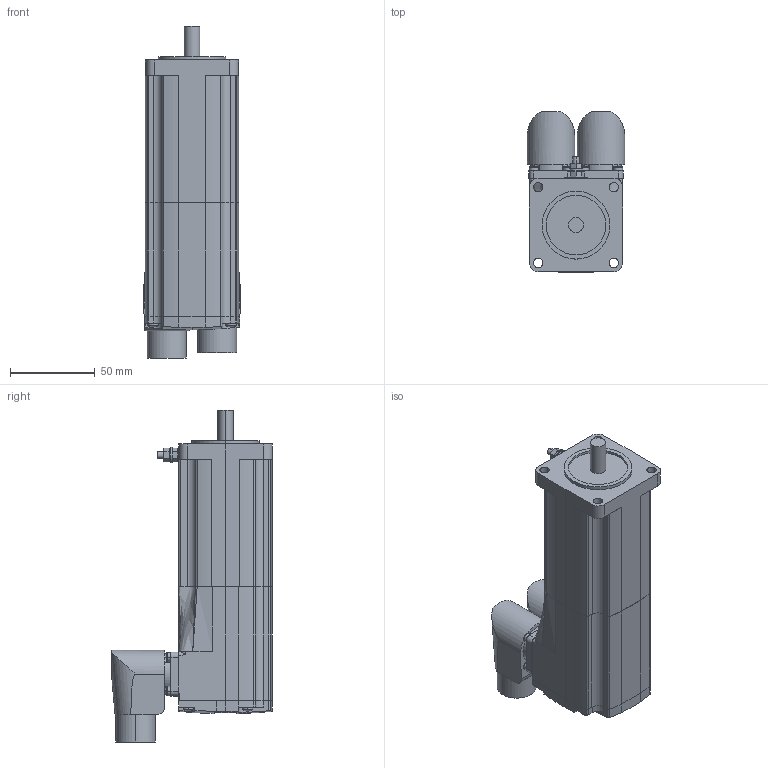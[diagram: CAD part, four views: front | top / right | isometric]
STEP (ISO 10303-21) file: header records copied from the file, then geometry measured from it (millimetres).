
FILE_DESCRIPTION (( 'STEP AP214' ), '1' );
FILE_NAME ('SH30551x0xF2100.STEP', '2013-11-29T07:11:13', ( 'Windows User' ), ( 'Schneider-Electric' ), 'SwSTEP 2.0', 'SolidWorks 2010', '' );
FILE_SCHEMA (( 'AUTOMOTIVE_DESIGN' ));
Length unit declared in the file: millimetre
Products named in the file (7): 1-100011007_K-TOPFGEHÄUSE SH3-055X_000_Topfgehäuse SH30551 ohne Passfeder; 1-100011008_K-LAGERSCHILD SH3-055X-A UND F_000_Lagerschild SH3-055x-F; 1-100011009_K-DECKEL SH3-055X_000_Deckel SH3-055x; 1-100011011_K-ERDUNGSBOLZEN M4_000; K-ENCODER-CONINVERS-ABGEW_ENCODER-CONINVERS-ABGEWINKELT_000_Single- MultiTurn; K-POWER-CONINVERS-ABGEWIN_POWER-CONINVERS-ABGEWINKELT_000_mit Bremse; SH30551x0xF2100
Assembly tree (6 placements, depth 2):
  SH30551x0xF2100
    1-100011011_K-ERDUNGSBOLZEN M4_000
    1-100011009_K-DECKEL SH3-055X_000_Deckel SH3-055x
    K-POWER-CONINVERS-ABGEWIN_POWER-CONINVERS-ABGEWINKELT_000_mit Bremse
    K-ENCODER-CONINVERS-ABGEW_ENCODER-CONINVERS-ABGEWINKELT_000_Single- MultiTurn
    1-100011008_K-LAGERSCHILD SH3-055X-A UND F_000_Lagerschild SH3-055x-F
    1-100011007_K-TOPFGEHÄUSE SH3-055X_000_Topfgehäuse SH30551 ohne Passfeder
Bounding box: 57.5 x 94.5 x 195.45 mm (x, y, z)
Volume: 498710.3 mm3; surface area: 67768.3 mm2
Topology: 6 solids, 6 shells, 400 faces, 997 edges, 658 vertices
Faces by surface type: cylinder 193, plane 170, torus 16, bspline 12, cone 5, sphere 4
Entity records: 13684 total; most frequent: CARTESIAN_POINT 3561, DIRECTION 2163, ORIENTED_EDGE 1990, EDGE_CURVE 995, AXIS2_PLACEMENT_3D 850, VERTEX_POINT 658, LINE 463, VECTOR 463
